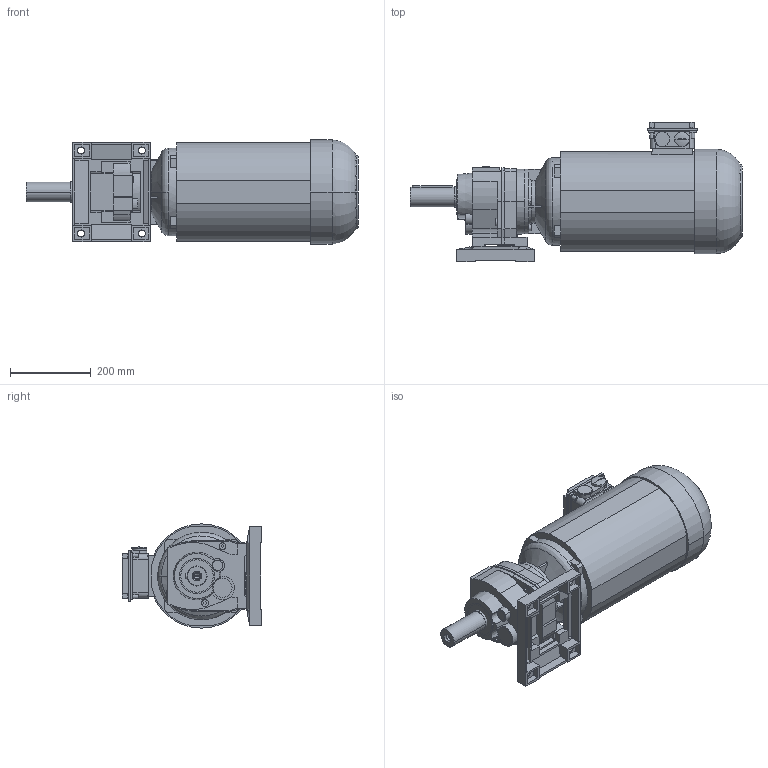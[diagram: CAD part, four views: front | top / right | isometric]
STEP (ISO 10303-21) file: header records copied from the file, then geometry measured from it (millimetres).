
FILE_DESCRIPTION(('STEP AP214'),'1');
FILE_NAME('STEP-File.stp','2018-01-01T00:00:00',(' '),('KEB'),' ','KEB-DRIVE',' ');
FILE_SCHEMA(('AUTOMOTIVE_DESIGN { 1 0 10303 214 1 1 1 1 }'));
Length unit declared in the file: millimetre
Products named in the file (9): z3a; w3_we_48x110; ca3; dm132_kkn; kk10; PLUG_M32; SCREW-PLUG_M32; ndm132; ZG32 DM132SB4§CAD13
Assembly tree (8 placements, depth 2):
  ZG32 DM132SB4§CAD13
    z3a
    w3_we_48x110
    ca3
    dm132_kkn
    kk10
    PLUG_M32
    SCREW-PLUG_M32
    ndm132
Bounding box: 820 x 344.6 x 257.5 mm (x, y, z)
Volume: 29347951.9 mm3; surface area: 1086066.7 mm2
Topology: 8 solids, 9 shells, 483 faces, 1285 edges, 842 vertices
Faces by surface type: plane 345, cylinder 101, cone 21, torus 14, bspline 2
Entity records: 16194 total; most frequent: CARTESIAN_POINT 4082, ORIENTED_EDGE 2566, DIRECTION 2294, EDGE_CURVE 1283, VECTOR 924, LINE 924, VERTEX_POINT 842, AXIS2_PLACEMENT_3D 685
